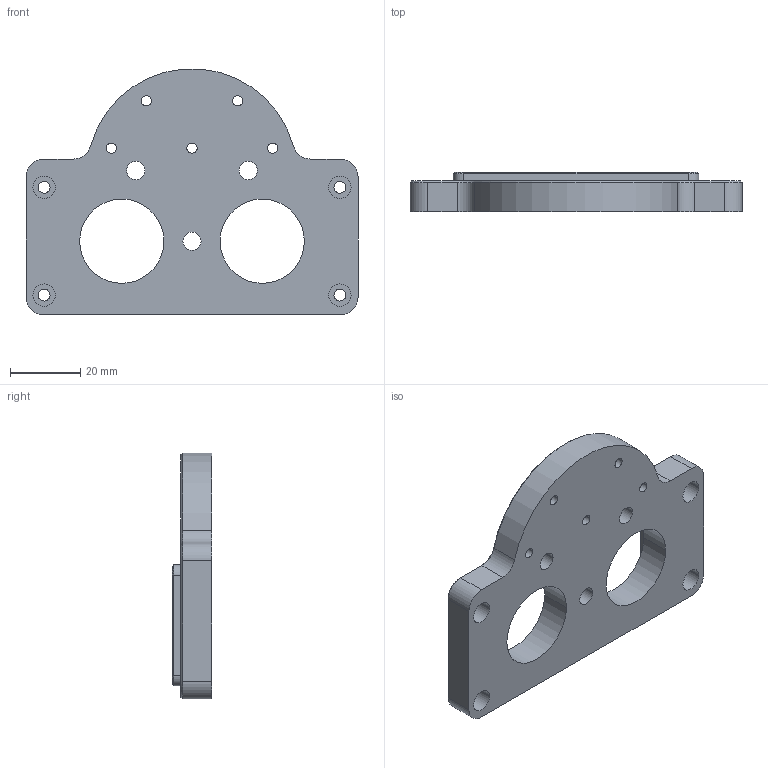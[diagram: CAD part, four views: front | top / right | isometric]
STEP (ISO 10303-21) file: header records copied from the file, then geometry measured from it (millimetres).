
FILE_DESCRIPTION((''),'2;1');
FILE_NAME('FRAME-O1','2025-11-08T10:28:50',('vevem'),(''),'CREO PARAMETRIC BY PTC INC, 2024253','CREO PARAMETRIC BY PTC INC, 2024253','');
FILE_SCHEMA(('AUTOMOTIVE_DESIGN { 1 0 10303 214 1 1 1 1 }'));
Length unit declared in the file: millimetre
Products named in the file (1): FRAME-O1
Bounding box: 94.6 x 11.3 x 70.04 mm (x, y, z)
Volume: 37751.9 mm3; surface area: 15015.9 mm2
Topology: 1 solids, 1 shells, 117 faces, 282 edges, 178 vertices
Faces by surface type: cylinder 61, plane 35, cone 21
Entity records: 4426 total; most frequent: DIRECTION 659, CARTESIAN_POINT 579, ORIENTED_EDGE 564, PRESENTATION_STYLE_ASSIGNMENT 283, STYLED_ITEM 283, CURVE_STYLE 282, EDGE_CURVE 282, AXIS2_PLACEMENT_3D 260
